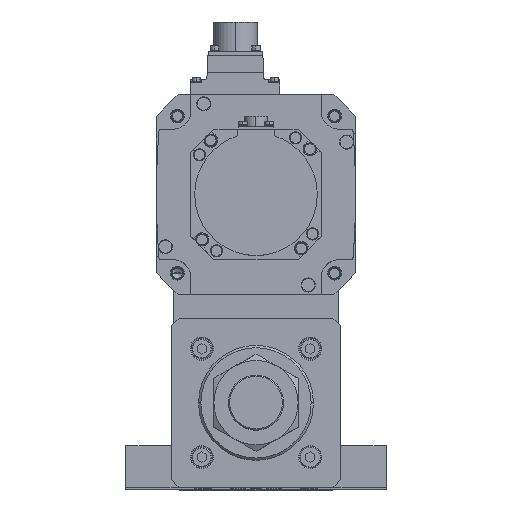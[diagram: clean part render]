
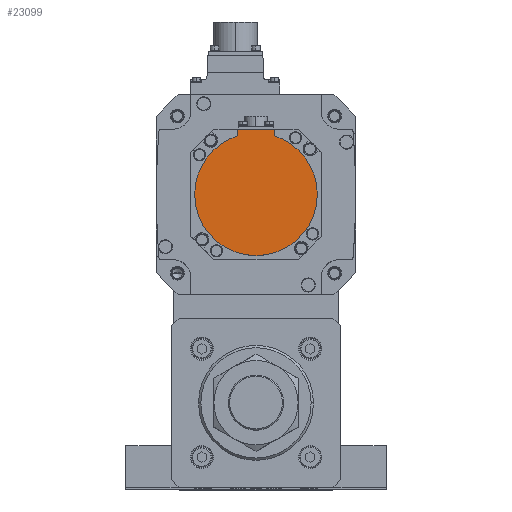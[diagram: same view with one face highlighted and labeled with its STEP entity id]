
A CAD part, top view. The second image highlights one B-rep face of the part: STEP entity #23099.
In plain terms, the highlighted planar face has unit normal (0, 0, 1) as drawn and (0, 0, -1) by its records, which use the part's own axes.
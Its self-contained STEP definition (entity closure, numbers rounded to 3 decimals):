
#2467 = VECTOR ( 'NONE', #17850, 1000. ) ;
#2735 = CARTESIAN_POINT ( 'NONE',  ( 0., -1.249, -132.5 ) ) ;
#3263 = CARTESIAN_POINT ( 'NONE',  ( 12., -38.158, -132.5 ) ) ;
#3285 = VERTEX_POINT ( 'NONE', #23415 ) ;
#4045 = VERTEX_POINT ( 'NONE', #3263 ) ;
#4565 = VECTOR ( 'NONE', #33853, 1000. ) ;
#5703 = ORIENTED_EDGE ( 'NONE', *, *, #32613, .F. ) ;
#6042 = AXIS2_PLACEMENT_3D ( 'NONE', #29404, #26586, #10699 ) ;
#6394 = PLANE ( 'NONE',  #15871 ) ;
#6894 = CARTESIAN_POINT ( 'NONE',  ( -12., -38.158, -132.5 ) ) ;
#7242 = DIRECTION ( 'NONE',  ( 1., 0., 0. ) ) ;
#7493 = AXIS2_PLACEMENT_3D ( 'NONE', #20887, #25842, #7242 ) ;
#7540 = ORIENTED_EDGE ( 'NONE', *, *, #19685, .F. ) ;
#10678 = CIRCLE ( 'NONE', #6042, 40. ) ;
#10699 = DIRECTION ( 'NONE',  ( 1., 0., 0. ) ) ;
#11122 = DIRECTION ( 'NONE',  ( 0., 0., 1. ) ) ;
#11645 = VERTEX_POINT ( 'NONE', #6894 ) ;
#12584 = LINE ( 'NONE', #28461, #4565 ) ;
#14191 = DIRECTION ( 'NONE',  ( 1., 0., 0. ) ) ;
#15180 = VERTEX_POINT ( 'NONE', #34155 ) ;
#15871 = AXIS2_PLACEMENT_3D ( 'NONE', #2735, #21593, #14191 ) ;
#16810 = VECTOR ( 'NONE', #19932, 1000. ) ;
#17850 = DIRECTION ( 'NONE',  ( -1., 0., 0. ) ) ;
#19685 = EDGE_CURVE ( 'NONE', #4045, #3285, #10678, .T. ) ;
#19932 = DIRECTION ( 'NONE',  ( 0., 1., 0. ) ) ;
#20165 = FACE_OUTER_BOUND ( 'NONE', #26187, .T. ) ;
#20735 = VERTEX_POINT ( 'NONE', #25680 ) ;
#20887 = CARTESIAN_POINT ( 'NONE',  ( 0., 0., -132.5 ) ) ;
#21593 = DIRECTION ( 'NONE',  ( 0., 0., 1. ) ) ;
#21662 = AXIS2_PLACEMENT_3D ( 'NONE', #24442, #11122, #27374 ) ;
#22288 = LINE ( 'NONE', #31624, #2467 ) ;
#22641 = CARTESIAN_POINT ( 'NONE',  ( 12., -42.5, -132.5 ) ) ;
#22646 = CARTESIAN_POINT ( 'NONE',  ( -12., -40.329, -132.5 ) ) ;
#22807 = EDGE_CURVE ( 'NONE', #3285, #15180, #31157, .T. ) ;
#23099 = ADVANCED_FACE ( 'NONE', ( #20165 ), #6394, .F. ) ;
#23170 = EDGE_CURVE ( 'NONE', #20735, #11645, #29423, .T. ) ;
#23415 = CARTESIAN_POINT ( 'NONE',  ( 40., 0., -132.5 ) ) ;
#24442 = CARTESIAN_POINT ( 'NONE',  ( 0., 0., -132.5 ) ) ;
#25680 = CARTESIAN_POINT ( 'NONE',  ( -12., -42.5, -132.5 ) ) ;
#25842 = DIRECTION ( 'NONE',  ( 0., 0., 1. ) ) ;
#26187 = EDGE_LOOP ( 'NONE', ( #34490, #31595, #34632, #7540, #5703, #32037 ) ) ;
#26586 = DIRECTION ( 'NONE',  ( 0., 0., 1. ) ) ;
#27374 = DIRECTION ( 'NONE',  ( 1., 0., 0. ) ) ;
#27688 = CIRCLE ( 'NONE', #21662, 40. ) ;
#28461 = CARTESIAN_POINT ( 'NONE',  ( 12., -1.249, -132.5 ) ) ;
#29404 = CARTESIAN_POINT ( 'NONE',  ( 0., 0., -132.5 ) ) ;
#29423 = LINE ( 'NONE', #22646, #16810 ) ;
#30791 = EDGE_CURVE ( 'NONE', #15180, #11645, #27688, .T. ) ;
#31157 = CIRCLE ( 'NONE', #7493, 40. ) ;
#31595 = ORIENTED_EDGE ( 'NONE', *, *, #30791, .F. ) ;
#31624 = CARTESIAN_POINT ( 'NONE',  ( 0., -42.5, -132.5 ) ) ;
#32037 = ORIENTED_EDGE ( 'NONE', *, *, #32753, .T. ) ;
#32613 = EDGE_CURVE ( 'NONE', #33070, #4045, #12584, .T. ) ;
#32753 = EDGE_CURVE ( 'NONE', #33070, #20735, #22288, .T. ) ;
#33070 = VERTEX_POINT ( 'NONE', #22641 ) ;
#33853 = DIRECTION ( 'NONE',  ( 0., 1., 0. ) ) ;
#34155 = CARTESIAN_POINT ( 'NONE',  ( -40., 0., -132.5 ) ) ;
#34490 = ORIENTED_EDGE ( 'NONE', *, *, #23170, .T. ) ;
#34632 = ORIENTED_EDGE ( 'NONE', *, *, #22807, .F. ) ;
